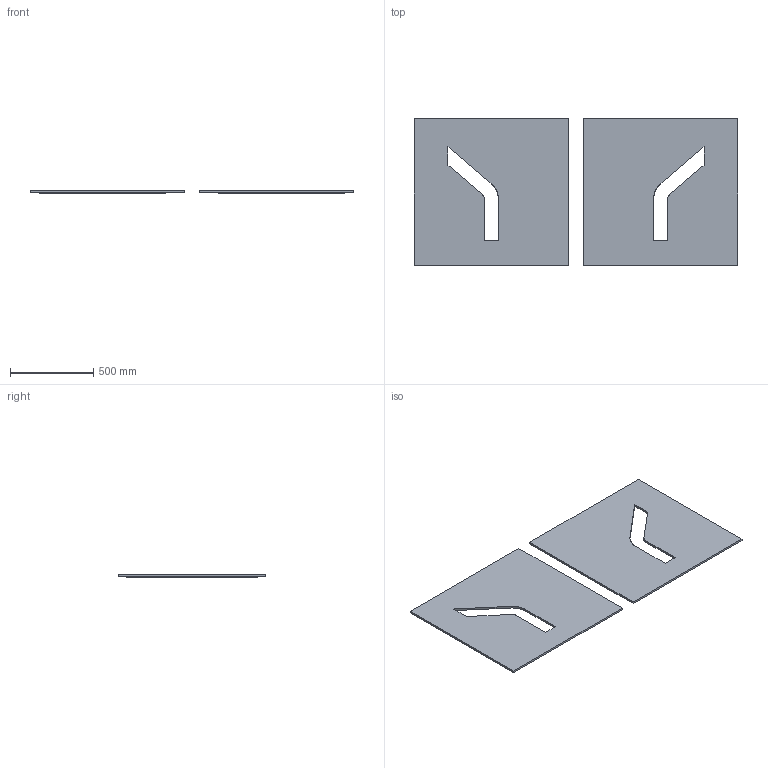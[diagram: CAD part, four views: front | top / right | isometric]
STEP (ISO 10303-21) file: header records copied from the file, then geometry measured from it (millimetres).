
FILE_DESCRIPTION(/* description */ (''),/* implementation_level */ '2;1');
FILE_NAME(/* name */ 'Hide-contre-forme',/* time_stamp */ '2026-09-01T14:24:25+02:00',/* author */ (''),/* organization */ (''),/* preprocessor_version */ 'ST-DEVELOPER v19.2',/* originating_system */ 'Rhino 8.29',/* authorisation */ '');
FILE_SCHEMA (('CONFIG_CONTROL_DESIGN'));
Length unit declared in the file: centimetre
Products named in the file (1): Document
Bounding box: 1939.64 x 877.37 x 12 mm (x, y, z)
Volume: 18208766.2 mm3; surface area: 3155842.3 mm2
Topology: 2 solids, 2 shells, 146 faces, 426 edges, 284 vertices
Faces by surface type: plane 136, bspline 10
Entity records: 4452 total; most frequent: CARTESIAN_POINT 1506, ORIENTED_EDGE 852, EDGE_CURVE 426, B_SPLINE_CURVE_WITH_KNOTS 426, VERTEX_POINT 284, EDGE_LOOP 150, ADVANCED_FACE 146, FACE_OUTER_BOUND 146
